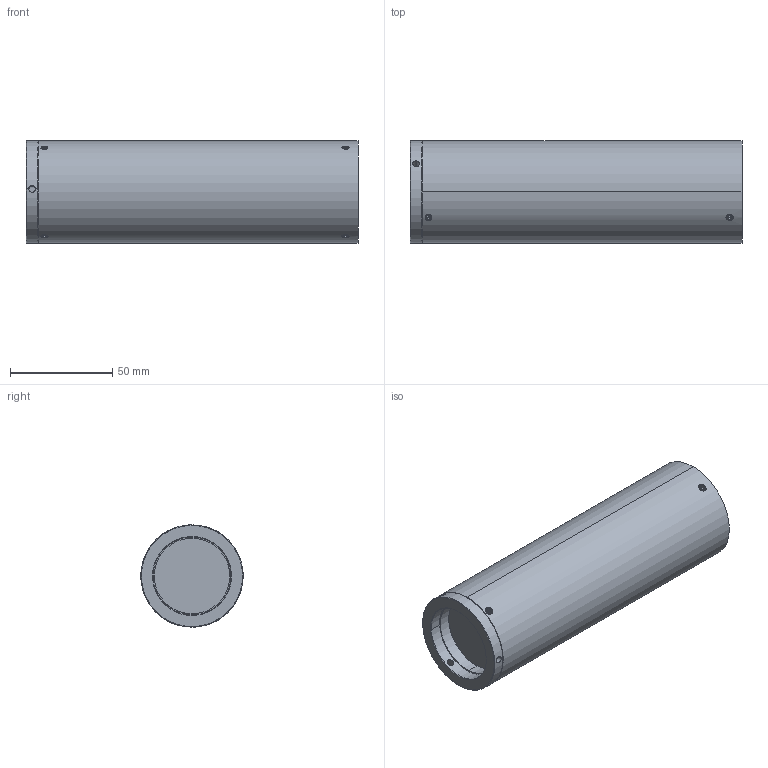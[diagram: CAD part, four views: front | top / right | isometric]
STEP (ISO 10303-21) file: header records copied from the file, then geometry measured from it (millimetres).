
FILE_DESCRIPTION (( 'STEP AP214' ), '1' );
FILE_NAME ('C60-TUBE-200NTi (CATALOG MODEL).STEP', '2026-07-07T18:54:01', ( '' ), ( '' ), 'SwSTEP 2.0', 'SolidWorks 2025', '' );
FILE_SCHEMA (( 'AUTOMOTIVE_DESIGN' ));
Length unit declared in the file: inch
Products named in the file (1): C60-TUBE-200NTi (CATALOG MODEL)
Bounding box: 162.28 x 50 x 50 mm (x, y, z)
Volume: 139676.2 mm3; surface area: 60002.3 mm2
Topology: 9 solids, 9 shells, 324 faces, 759 edges, 453 vertices
Faces by surface type: cylinder 109, cone 99, plane 98, bspline 18
Entity records: 16554 total; most frequent: CARTESIAN_POINT 8799, ORIENTED_EDGE 1494, DIRECTION 1256, EDGE_CURVE 747, AXIS2_PLACEMENT_3D 493, VERTEX_POINT 453, EDGE_LOOP 358, FACE_OUTER_BOUND 324
